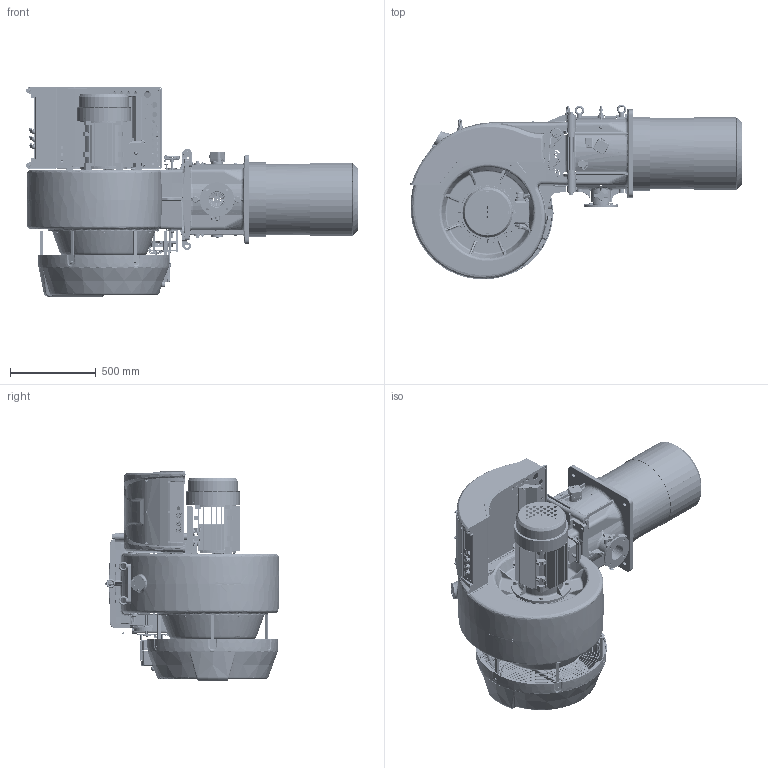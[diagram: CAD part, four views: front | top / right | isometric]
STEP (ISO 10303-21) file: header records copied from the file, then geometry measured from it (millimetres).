
FILE_DESCRIPTION (( 'STEP AP214' ), '1' );
FILE_NAME ('67430010p.STEP', '2018-04-06T12:10:29', ( '' ), ( '' ), 'SwSTEP 2.0', 'SolidWorks 2016', '' );
FILE_SCHEMA (( 'AUTOMOTIVE_DESIGN' ));
Length unit declared in the file: millimetre
Products named in the file (1): 67430010p
Bounding box: 1932.45 x 1016.54 x 1223.5 mm (x, y, z)
Surface area: 12110779.6 mm2 (no closed solid volume)
Topology: 0 solids, 677 shells, 3802 faces, 18755 edges, 14929 vertices
Faces by surface type: plane 1482, cylinder 1070, bspline 927, cone 162, torus 143, sphere 18
Full cylindrical faces by diameter (mm): 3.3 x7, 4 x11, 4.2 x2, 5 x10, 5.4 x1, 5.48 x1, 5.5 x1, 6 x6, 6.2 x4, 6.5 x1, 7.8 x2, 8 x18, 8.2 x1, 8.5 x4, 9 x1, 9.3 x1, 9.5 x6, 9.8 x2, 10 x16, 10.2 x7, 11 x1, 12 x11, 13 x12, 13.462 x1, 14 x24, 14.5 x1, 15 x9, 15.2 x1, 16 x9, 17 x11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
Entity records: 378432 total; most frequent: CARTESIAN_POINT 235397, ORIENTED_EDGE 23542, DIRECTION 20162, EDGE_CURVE 18130, VERTEX_POINT 14787, LINE 7042, VECTOR 7042, B_SPLINE_CURVE_WITH_KNOTS 6877
